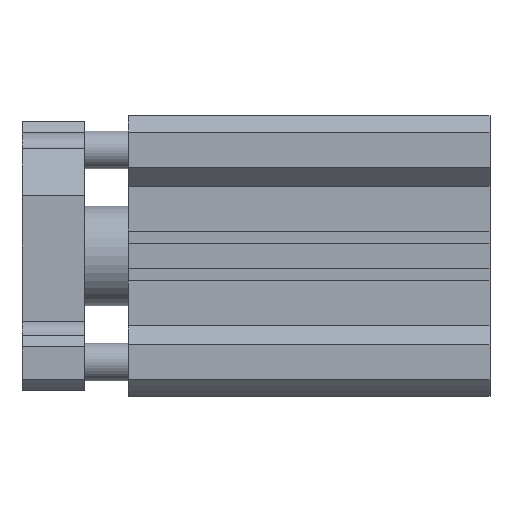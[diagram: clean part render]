
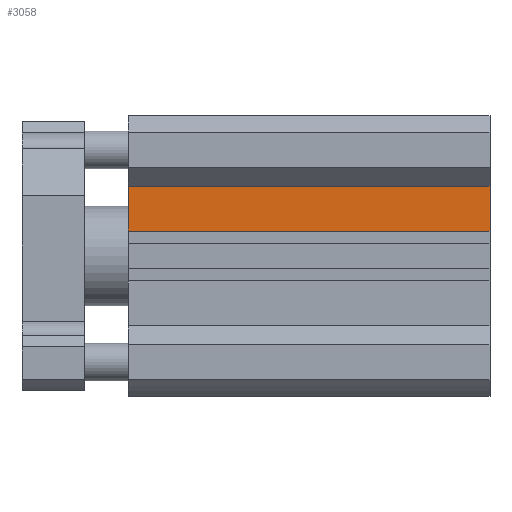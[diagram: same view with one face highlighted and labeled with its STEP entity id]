
A CAD part, front view. The second image highlights one B-rep face of the part: STEP entity #3058.
In plain terms, the highlighted planar face has unit normal (0, -1, 0).
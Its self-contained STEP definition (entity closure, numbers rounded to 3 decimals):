
#115 = DIRECTION ( 'NONE',  ( -1., 0., 0. ) ) ;
#219 = EDGE_CURVE ( 'NONE', #3924, #399, #911, .T. ) ;
#281 = VECTOR ( 'NONE', #3209, 1000. ) ;
#321 = EDGE_LOOP ( 'NONE', ( #1058, #4298, #3337, #4463 ) ) ;
#372 = VERTEX_POINT ( 'NONE', #3809 ) ;
#399 = VERTEX_POINT ( 'NONE', #2143 ) ;
#828 = CARTESIAN_POINT ( 'NONE',  ( 0., -19.5, 11.2 ) ) ;
#911 = LINE ( 'NONE', #3660, #1034 ) ;
#1034 = VECTOR ( 'NONE', #1661, 1000. ) ;
#1058 = ORIENTED_EDGE ( 'NONE', *, *, #2240, .T. ) ;
#1570 = LINE ( 'NONE', #828, #281 ) ;
#1661 = DIRECTION ( 'NONE',  ( -1., 0., 0. ) ) ;
#1671 = DIRECTION ( 'NONE',  ( 0., 1., 0. ) ) ;
#1687 = EDGE_CURVE ( 'NONE', #3924, #2551, #4583, .T. ) ;
#2057 = CARTESIAN_POINT ( 'NONE',  ( 58., -19.5, 11.2 ) ) ;
#2143 = CARTESIAN_POINT ( 'NONE',  ( 0., -19.5, 11.2 ) ) ;
#2240 = EDGE_CURVE ( 'NONE', #399, #372, #1570, .T. ) ;
#2478 = LINE ( 'NONE', #4047, #4491 ) ;
#2551 = VERTEX_POINT ( 'NONE', #3450 ) ;
#2932 = FACE_OUTER_BOUND ( 'NONE', #321, .T. ) ;
#3058 = ADVANCED_FACE ( 'NONE', ( #2932 ), #4521, .F. ) ;
#3103 = CARTESIAN_POINT ( 'NONE',  ( 58., -19.5, 11.2 ) ) ;
#3193 = AXIS2_PLACEMENT_3D ( 'NONE', #3720, #1671, #4082 ) ;
#3209 = DIRECTION ( 'NONE',  ( 0., 0., -1. ) ) ;
#3337 = ORIENTED_EDGE ( 'NONE', *, *, #1687, .F. ) ;
#3450 = CARTESIAN_POINT ( 'NONE',  ( 58., -19.5, 4. ) ) ;
#3660 = CARTESIAN_POINT ( 'NONE',  ( 58., -19.5, 11.2 ) ) ;
#3720 = CARTESIAN_POINT ( 'NONE',  ( 58., -19.5, 11.2 ) ) ;
#3809 = CARTESIAN_POINT ( 'NONE',  ( 0., -19.5, 4. ) ) ;
#3924 = VERTEX_POINT ( 'NONE', #2057 ) ;
#4047 = CARTESIAN_POINT ( 'NONE',  ( 58., -19.5, 4. ) ) ;
#4082 = DIRECTION ( 'NONE',  ( 1., 0., 0. ) ) ;
#4297 = VECTOR ( 'NONE', #4304, 1000. ) ;
#4298 = ORIENTED_EDGE ( 'NONE', *, *, #5005, .F. ) ;
#4304 = DIRECTION ( 'NONE',  ( 0., 0., -1. ) ) ;
#4463 = ORIENTED_EDGE ( 'NONE', *, *, #219, .T. ) ;
#4491 = VECTOR ( 'NONE', #115, 1000. ) ;
#4521 = PLANE ( 'NONE',  #3193 ) ;
#4583 = LINE ( 'NONE', #3103, #4297 ) ;
#5005 = EDGE_CURVE ( 'NONE', #2551, #372, #2478, .T. ) ;
